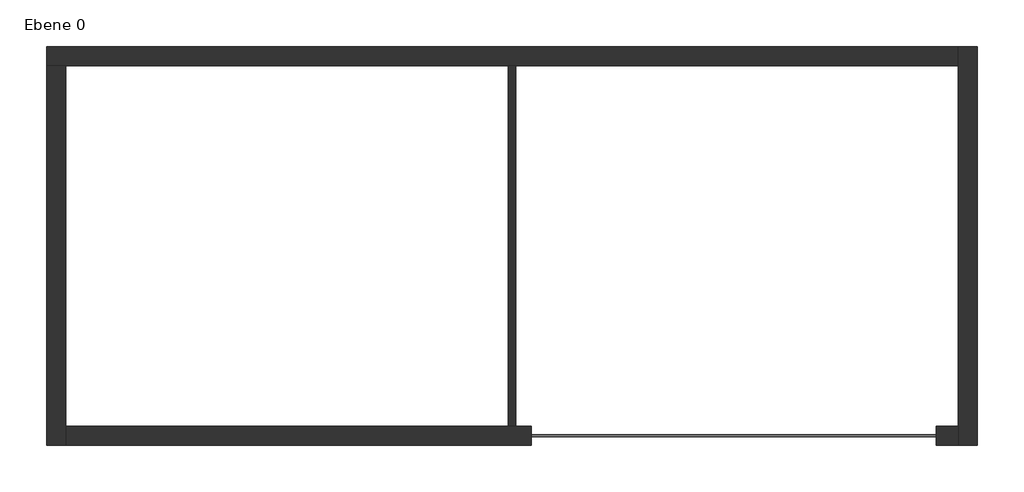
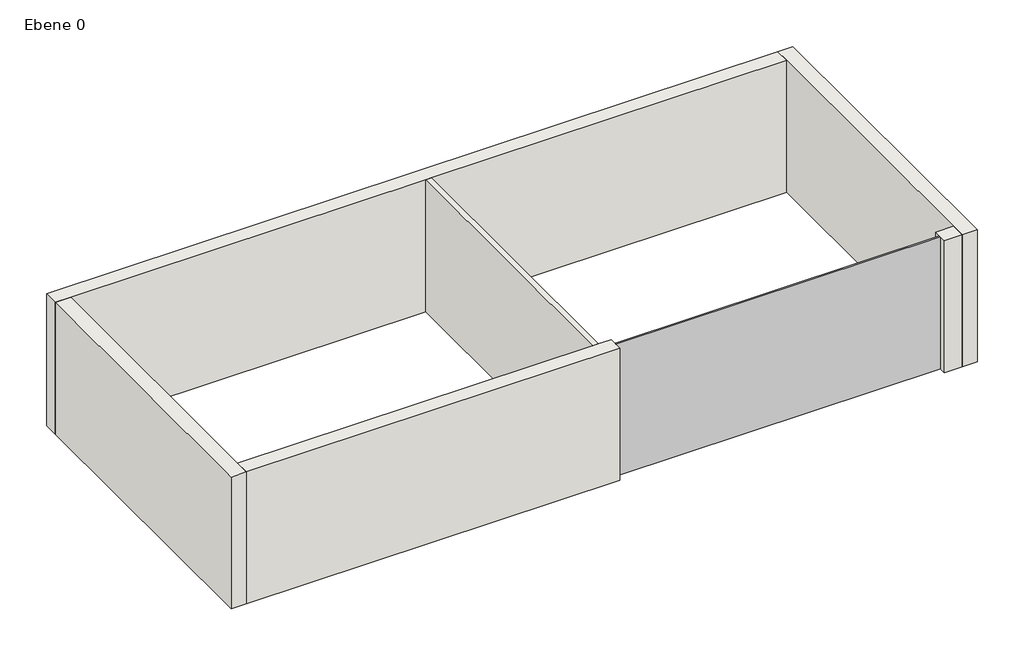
# One storey: 5 walls, 1 plate.
"""IFC4 building model written with IfcOpenShell, lengths in millimetres."""

from ifc_helpers import new_model, si_unit, origin, origin_with_axes, place, context, project, spatial, polyline, outline, extrude, faceted_brep, transform, mapped, element, save
from components import systemelement_verglasung_6f23034a

model = new_model("IFC4")

# Units and contexts
model_context = context("Model", 3, world=origin())
ifc_project = project(units=[si_unit("LENGTHUNIT", "METRE", prefix="MILLI")], contexts=[model_context])

# Site, building, storey
site = spatial("IfcSite", under=ifc_project)
building = spatial("IfcBuilding", under=site)
storey = spatial("IfcBuildingStorey", under=building, Name="Ebene 0", Elevation=0.0)

# Plate
placement = place(None, origin())
systemelement_verglasung_shape = systemelement_verglasung_6f23034a(model_context)
element("IfcPlate", 1, ObjectType="Systemelement : Verglasung", at=placement, inside=storey, context=model_context, shape_type="MappedRepresentation", body=[
    mapped(systemelement_verglasung_shape, transform((19703.1848458, 7373.2868232, 0.0), x_axis=(1.0, 0.0, 0.0), y_axis=(0.0, 1.0, 0.0), z_axis=(0.0, 0.0, 1.0))),
])

# Walls
element("IfcWall", 2, ObjectType="MW 11.5", at=placement, inside=storey, context=model_context, shape_type="SweptSolid", body=[
    extrude(outline(polyline([(16253.1848458, 13223.2868232), (16253.1848458, 7523.2868232), (16138.1848458, 7523.2868232), (16138.1848458, 13223.2868232), (16253.1848458, 13223.2868232)])), origin_with_axes(), (0.0, 0.0, 1.0), 2750.0),
])
element("IfcWall", 3, ObjectType="STB 30.0", at=placement, inside=storey, context=model_context, shape_type="Brep", body=[
    faceted_brep([(8838.1848458, 13223.2868232, 0.0), (9138.1848458, 13223.2868232, 0.0), (16138.1848458, 13223.2868232, 0.0), (16253.1848458, 13223.2868232, 0.0), (23253.1848458, 13223.2868232, 0.0), (23253.1848458, 13223.2868232, 2750.0), (16253.1848458, 13223.2868232, 2750.0), (16138.1848458, 13223.2868232, 2750.0), (9138.1848458, 13223.2868232, 2750.0), (8838.1848458, 13223.2868232, 2750.0), (8838.1848458, 13523.2868232, 0.0), (8838.1848458, 13523.2868232, 2750.0), (23253.1848458, 13523.2868232, 2750.0), (23253.1848458, 13523.2868232, 0.0)], [[[0, 1, 2, 3, 4, 5, 6, 7, 8, 9]], [[10, 11, 12, 13]], [[4, 3, 2, 1, 0, 10, 13]], [[9, 8, 7, 6, 5, 12, 11]], [[0, 9, 11, 10]], [[5, 4, 13, 12]]]),
])
element("IfcWall", 4, ObjectType="STB 30.0", at=placement, inside=storey, context=model_context, shape_type="Brep", body=[
    faceted_brep([(9138.1848458, 7223.2868232, 0.0), (9138.1848458, 7523.2868232, 0.0), (9138.1848458, 13223.2868232, 0.0), (9138.1848458, 13223.2868232, 2750.0), (9138.1848458, 7523.2868232, 2750.0), (9138.1848458, 7223.2868232, 2750.0), (8838.1848458, 7223.2868232, 0.0), (8838.1848458, 7223.2868232, 2750.0), (8838.1848458, 13223.2868232, 2750.0), (8838.1848458, 13223.2868232, 0.0)], [[[0, 1, 2, 3, 4, 5]], [[6, 7, 8, 9]], [[2, 1, 0, 6, 9]], [[5, 4, 3, 8, 7]], [[0, 5, 7, 6]], [[3, 2, 9, 8]]]),
])
element("IfcWall", 5, ObjectType="STB 30.0", at=placement, inside=storey, context=model_context, shape_type="Brep", body=[
    faceted_brep([(9138.1848458, 7523.2868232, 0.0), (9138.1848458, 7523.2868232, 2750.0), (16138.1848458, 7523.2868232, 2750.0), (16253.1848458, 7523.2868232, 2750.0), (16503.1848458, 7523.2868232, 2750.0), (16503.1848458, 7523.2868232, 0.0), (16253.1848458, 7523.2868232, 0.0), (16138.1848458, 7523.2868232, 0.0), (9138.1848458, 7223.2868232, 2750.0), (9138.1848458, 7223.2868232, 0.0), (16503.1848458, 7223.2868232, 0.0), (16503.1848458, 7223.2868232, 2750.0)], [[[0, 1, 2, 3, 4, 5, 6, 7]], [[8, 9, 10, 11]], [[9, 0, 7, 6, 5, 10]], [[1, 8, 11, 4, 3, 2]], [[1, 0, 9, 8]], [[5, 4, 11, 10]]]),
    faceted_brep([(23253.1848458, 7523.2868232, 2750.0), (23253.1848458, 7523.2868232, 0.0), (22903.1848458, 7523.2868232, 0.0), (22903.1848458, 7523.2868232, 2750.0), (23253.1848458, 7223.2868232, 0.0), (23253.1848458, 7223.2868232, 2750.0), (22903.1848458, 7223.2868232, 2750.0), (22903.1848458, 7223.2868232, 0.0)], [[[0, 1, 2, 3]], [[4, 5, 6, 7]], [[1, 4, 7, 2]], [[5, 0, 3, 6]], [[1, 0, 5, 4]], [[3, 2, 7, 6]]]),
])
element("IfcWall", 6, ObjectType="STB 30.0", at=placement, inside=storey, context=model_context, shape_type="Brep", body=[
    faceted_brep([(23253.1848458, 13523.2868232, 0.0), (23253.1848458, 13223.2868232, 0.0), (23253.1848458, 7223.2868232, 0.0), (23253.1848458, 7223.2868232, 2750.0), (23253.1848458, 13223.2868232, 2750.0), (23253.1848458, 13523.2868232, 2750.0), (23553.1848458, 13523.2868232, 0.0), (23553.1848458, 13523.2868232, 2750.0), (23553.1848458, 7223.2868232, 2750.0), (23553.1848458, 7223.2868232, 0.0)], [[[0, 1, 2, 3, 4, 5]], [[6, 7, 8, 9]], [[2, 1, 0, 6, 9]], [[5, 4, 3, 8, 7]], [[0, 5, 7, 6]], [[3, 2, 9, 8]]]),
])

save(model, "model.ifc")
